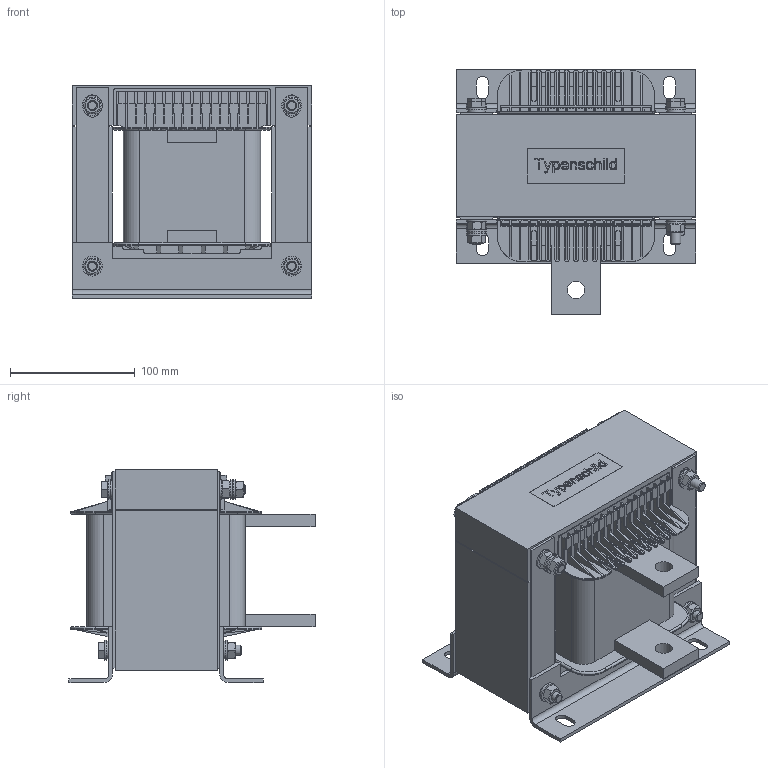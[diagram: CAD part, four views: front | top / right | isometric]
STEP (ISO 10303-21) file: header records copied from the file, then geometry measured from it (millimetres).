
FILE_DESCRIPTION((''),'2;1');
FILE_NAME('C:\Users\fp1\CAD-Daten\DEG\DEG2,5 400.stp','2014-06-26T11:33:49',('FP1'),(''),'Autodesk Inventor 2013','Autodesk Inventor 2013','');
FILE_SCHEMA(('AUTOMOTIVE_DESIGN { 1 0 10303 214 1 1 1 1 }'));
Length unit declared in the file: millimetre
Products named in the file (1): Bauteil241
Bounding box: 192 x 197.6 x 171.12 mm (x, y, z)
Volume: 3030952.8 mm3; surface area: 382748.7 mm2
Topology: 1 solids, 1 shells, 1493 faces, 4175 edges, 2655 vertices
Faces by surface type: plane 975, cylinder 322, bspline 98, torus 56, cone 38, sphere 4
Full cylindrical faces by diameter (mm): 8 x9, 8.1 x7, 8.4 x10, 9.8 x7, 11 x4, 11.63 x4, 14 x9, 16 x10
Entity records: 49741 total; most frequent: CARTESIAN_POINT 10892, ORIENTED_EDGE 8156, DIRECTION 7552, EDGE_CURVE 4078, VECTOR 2876, LINE 2876, VERTEX_POINT 2632, AXIS2_PLACEMENT_3D 2338
